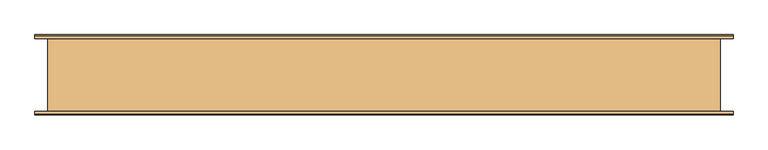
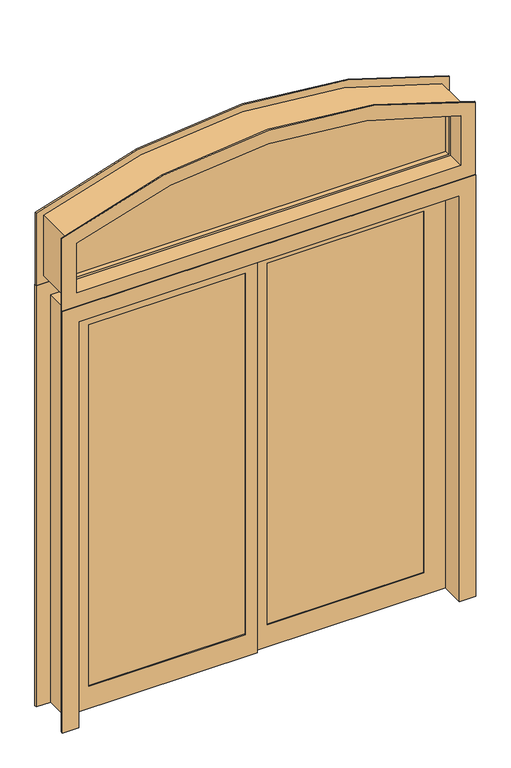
"""IFC4 building model written with IfcOpenShell, lengths in millimetres: door geometry, Pollard_Windows_Vistador Patio Doors_ATS_Extended Segmental : AVDR7180-ESW1806."""

import ifcopenshell
import ifcopenshell.guid

model = None  # the IFC model being written
_history = None  # IfcOwnerHistory: only IFC2X3 demands one
_inside = {}  # id of a spatial element -> (the spatial element, [elements in it])
_under = {}  # id of a project, library or spatial element -> (it, [spatial elements below it])
_declared = {}  # id of a project -> (the project, [libraries it declares])
_typed = {}  # id of a type object -> (the type object, [elements of that type])
_made_of = {}  # id of a material, layer set ... -> (it, [elements and type objects made of it])


def new_model(schema):
    """Start an empty IFC model of exactly this schema.

    Asked for "IFC4X3", IfcOpenShell would pick the latest addendum, in which some entities
    have other attributes; the version numbers below select the first issue.
    IFC2X3 requires an IfcOwnerHistory on every rooted entity: one is made here for all.
    """
    global model, _history
    if schema == "IFC4X3":
        model = ifcopenshell.file(schema_version=(4, 3, 0, 0))
    else:
        model = ifcopenshell.file(schema=schema)
    _inside.clear()
    _under.clear()
    _declared.clear()
    _typed.clear()
    _made_of.clear()
    _history = None
    if model.schema == "IFC2X3":
        org = make("IfcOrganization", Name="unknown")
        user = make(
            "IfcPersonAndOrganization",
            ThePerson=make("IfcPerson", FamilyName="unknown"),
            TheOrganization=org,
        )
        app = make(
            "IfcApplication",
            ApplicationDeveloper=org,
            Version="unknown",
            ApplicationFullName="unknown",
            ApplicationIdentifier="unknown",
        )
        _history = make(
            "IfcOwnerHistory",
            OwningUser=user,
            OwningApplication=app,
            ChangeAction="ADDED",
            CreationDate=0,
        )
    return model


def make(cls, **values):
    """One entity of the class cls with the attributes given. An attribute that is None is left unset."""
    return model.create_entity(
        cls, **{name: value for name, value in values.items() if value is not None}
    )


def rooted(cls, **values):
    """An entity with a GlobalId (a new one), such as an element, a storey or a relation."""
    return make(cls, GlobalId=ifcopenshell.guid.new(), OwnerHistory=_history, **values)


def si_unit(unit_type, name, prefix=None):
    """IfcSIUnit, for example si_unit("LENGTHUNIT", "METRE", prefix="MILLI")."""
    return make("IfcSIUnit", UnitType=unit_type, Prefix=prefix, Name=name)


def assignment(units):
    """IfcUnitAssignment: the units of a project."""
    return None if units is None else make("IfcUnitAssignment", Units=units)


def point(xyz):
    """IfcCartesianPoint."""
    return None if xyz is None else make("IfcCartesianPoint", Coordinates=xyz)


def direction(xyz):
    """IfcDirection."""
    return None if xyz is None else make("IfcDirection", DirectionRatios=xyz)


def frame(location, z_axis=None, x_axis=None):
    """IfcAxis2Placement3D, a coordinate frame: its origin and axes. An axis left out is left unset."""
    return make(
        "IfcAxis2Placement3D",
        Location=point(location),
        Axis=direction(z_axis),
        RefDirection=direction(x_axis),
    )


def frame_2d(location, x_axis=None):
    """IfcAxis2Placement2D, a coordinate frame in the plane: its origin and x axis."""
    return make(
        "IfcAxis2Placement2D", Location=point(location), RefDirection=direction(x_axis)
    )


def origin():
    """The frame at (0, 0, 0) with its axes left unset."""
    return frame((0.0, 0.0, 0.0))


def place(relative_to, where):
    """IfcLocalPlacement: puts the frame where relative to a parent placement (None: the world)."""
    return make(
        "IfcLocalPlacement", PlacementRelTo=relative_to, RelativePlacement=where
    )


def context(
    kind, dimensions, precision=None, world=None, true_north=None, identifier=None
):
    """IfcGeometricRepresentationContext, for example the 3D "Model" context."""
    return make(
        "IfcGeometricRepresentationContext",
        ContextIdentifier=identifier,
        ContextType=kind,
        CoordinateSpaceDimension=dimensions,
        Precision=precision,
        WorldCoordinateSystem=world,
        TrueNorth=true_north,
    )


def project(units=None, contexts=None):
    """IfcProject with its units and contexts."""
    return rooted(
        "IfcProject",
        Name="project",
        RepresentationContexts=contexts,
        UnitsInContext=assignment(units),
    )


def spatial(cls, under=None, at=None, **own):
    """A site, building, storey or space (cls), placed at a placement, below another one or the project."""
    s = rooted(cls, ObjectPlacement=at, **own)
    if under is not None:
        _under.setdefault(under.id(), (under, []))[1].append(s)
    return s


def polyline(points):
    """IfcPolyline through the points."""
    return make("IfcPolyline", Points=[point(p) for p in points])


def circle_curve(where, radius):
    """IfcCircle in the frame where."""
    return make("IfcCircle", Position=where, Radius=radius)


def trimmed(basis, trim1, trim2, sense, master):
    """IfcTrimmedCurve: the piece of a basis curve between two trims."""
    return make(
        "IfcTrimmedCurve",
        BasisCurve=basis,
        Trim1=trim1,
        Trim2=trim2,
        SenseAgreement=sense,
        MasterRepresentation=master,
    )


def segment(curve, same_sense, transition):
    """IfcCompositeCurveSegment."""
    return make(
        "IfcCompositeCurveSegment",
        Transition=transition,
        SameSense=same_sense,
        ParentCurve=curve,
    )


def composite_curve(segments, self_intersect=None):
    """IfcCompositeCurve: segments joined end to end."""
    return make("IfcCompositeCurve", Segments=segments, SelfIntersect=self_intersect)


def outline(outer, holes=None, kind="AREA"):
    """IfcArbitraryClosedProfileDef: a profile drawn as a closed curve; with holes, ...WithVoids."""
    if holes is None:
        return make("IfcArbitraryClosedProfileDef", ProfileType=kind, OuterCurve=outer)
    return make(
        "IfcArbitraryProfileDefWithVoids",
        ProfileType=kind,
        OuterCurve=outer,
        InnerCurves=holes,
    )


def extrude(swept, where, along, depth):
    """IfcExtrudedAreaSolid: the profile swept, set in the frame where, extruded along a direction by depth."""
    return make(
        "IfcExtrudedAreaSolid",
        SweptArea=swept,
        Position=where,
        ExtrudedDirection=direction(along),
        Depth=depth,
    )


def faces_of(points, faces, orient=None, outer=None):
    """IfcFace entities. A face is a list of loops; a loop is a list of indices into points, from 0.

    orient and outer hold one flag for each loop. By default every Orientation is true, the
    first loop of a face is its IfcFaceOuterBound and the others are IfcFaceBound.
    """
    made = []
    for i, loops in enumerate(faces):
        bounds = []
        for j, loop in enumerate(loops):
            is_outer = j == 0 if outer is None else outer[i][j]
            bounds.append(
                make(
                    "IfcFaceOuterBound" if is_outer else "IfcFaceBound",
                    Bound=make("IfcPolyLoop", Polygon=[points[k] for k in loop]),
                    Orientation=True if orient is None else orient[i][j],
                )
            )
        made.append(make("IfcFace", Bounds=bounds))
    return made


def faceted_brep(points, faces, orient=None, outer=None, voids=None):
    """IfcFacetedBrep: a solid bounded by flat faces; with voids (closed shells), ...WithVoids."""
    shared = [point(p) for p in points]
    hull = make("IfcClosedShell", CfsFaces=faces_of(shared, faces, orient, outer))
    if voids is None:
        return make("IfcFacetedBrep", Outer=hull)
    return make(
        "IfcFacetedBrepWithVoids",
        Outer=hull,
        Voids=[
            make(cls, CfsFaces=faces_of(shared, fs, o, b)) for cls, fs, o, b in voids
        ],
    )


def shape(context_of_items, identifier, shape_type, items):
    """IfcShapeRepresentation: the items that make up one representation, for example the "Body"."""
    return make(
        "IfcShapeRepresentation",
        ContextOfItems=context_of_items,
        RepresentationIdentifier=identifier,
        RepresentationType=shape_type,
        Items=items,
    )


def source(mapping_origin, context_of_items, identifier, shape_type, items):
    """IfcRepresentationMap: a shape defined once, which mapped items show again and again."""
    return make(
        "IfcRepresentationMap",
        MappingOrigin=mapping_origin,
        MappedRepresentation=shape(context_of_items, identifier, shape_type, items),
    )


def transform(
    local_origin,
    x_axis=None,
    y_axis=None,
    z_axis=None,
    scale=None,
    scale2=None,
    scale3=None,
    uniform=True,
):
    """IfcCartesianTransformationOperator3D, or its non-uniform kind. x_axis, y_axis, z_axis: its Axis1, 2, 3."""
    if uniform:
        return make(
            "IfcCartesianTransformationOperator3D",
            Axis1=direction(x_axis),
            Axis2=direction(y_axis),
            LocalOrigin=point(local_origin),
            Scale=scale,
            Axis3=direction(z_axis),
        )
    return make(
        "IfcCartesianTransformationOperator3DnonUniform",
        Axis1=direction(x_axis),
        Axis2=direction(y_axis),
        LocalOrigin=point(local_origin),
        Scale=scale,
        Axis3=direction(z_axis),
        Scale2=scale2,
        Scale3=scale3,
    )


def mapped(mapping_source, mapping_target):
    """IfcMappedItem: shows the shape of a source again, moved by a transform."""
    return make(
        "IfcMappedItem", MappingSource=mapping_source, MappingTarget=mapping_target
    )


def made_of(thing, what):
    """Note that an element or type object is made of a material, layer set ...; save() writes the relation."""
    if what is not None:
        _made_of.setdefault(what.id(), (what, []))[1].append(thing)
    return thing


def element(
    cls,
    number,
    at=None,
    inside=None,
    cuts=None,
    type_object=None,
    material=None,
    context=None,
    identifier="Body",
    shape_type=None,
    held_by="IfcProductDefinitionShape",
    body=None,
    shapes=None,
    **own,
):
    """One element of the class cls, such as IfcWall. Its Tag is "e" and its number.

    at: its placement. inside: the storey or other place that contains it. cuts: it is an
    opening in that element (IfcRelVoidsElement). A single representation is given by context,
    identifier, shape_type and body (its items); several are given by shapes. held_by: the class
    of the entity that holds the representations. save() writes the other relations.
    """
    e = rooted(cls, Tag="e%d" % number, ObjectPlacement=at, **own)
    if body is not None:
        shapes = [shape(context, identifier, shape_type, body)]
    if shapes is not None:
        e.Representation = make(held_by, Representations=shapes)
    if inside is not None:
        _inside.setdefault(inside.id(), (inside, []))[1].append(e)
    if cuts is not None:
        rooted(
            "IfcRelVoidsElement", RelatingBuildingElement=cuts, RelatedOpeningElement=e
        )
    if type_object is not None:
        _typed.setdefault(type_object.id(), (type_object, []))[1].append(e)
    return made_of(e, material)


def aggregate(whole, parts):
    """IfcRelAggregates: a whole, such as a stair, and the parts it consists of."""
    return rooted("IfcRelAggregates", RelatingObject=whole, RelatedObjects=parts)


def save(model, path):
    """Write the relations noted so far, then the file.

    IfcRelAggregates (storeys below a building ...), IfcRelContainedInSpatialStructure (elements
    in a storey), IfcRelDefinesByType, IfcRelAssociatesMaterial and IfcRelDeclares: one each for
    every whole, place, type object, material and project.
    """
    for whole, parts in _under.values():
        aggregate(whole, parts)
    for where, things in _inside.values():
        rooted(
            "IfcRelContainedInSpatialStructure",
            RelatedElements=things,
            RelatingStructure=where,
        )
    for kind, things in _typed.values():
        rooted("IfcRelDefinesByType", RelatedObjects=things, RelatingType=kind)
    for what, things in _made_of.values():
        rooted("IfcRelAssociatesMaterial", RelatedObjects=things, RelatingMaterial=what)
    for by, libraries in _declared.values():
        rooted("IfcRelDeclares", RelatingContext=by, RelatedDefinitions=libraries)
    model.write(path)


def plane_surface(at):
    """IfcPlane: the flat surface through the origin of the frame at, square to its z axis."""
    return make("IfcPlane", Position=at)


def cylinder_surface(at, radius):
    """IfcCylindricalSurface: all points at the distance radius from the z axis of the frame at."""
    return make("IfcCylindricalSurface", Position=at, Radius=radius)


def revolved_surface(curve, axis_point, axis_direction):
    """IfcSurfaceOfRevolution: the curve turned about the line through axis_point along axis_direction."""
    return make(
        "IfcSurfaceOfRevolution",
        SweptCurve=make("IfcArbitraryOpenProfileDef", ProfileType="CURVE", Curve=curve),
        AxisPosition=make("IfcAxis1Placement", Location=point(axis_point), Axis=direction(axis_direction)),
    )


def advanced_brep(points, edges, surfaces, faces):
    """IfcAdvancedBrep: a solid bounded by faces that lie on surfaces and meet in shared edges.

    An edge is (start, end): straight between two places in points (the first is 0);
    or (start, end, curve); or (start, end, curve, False) where it runs against its curve.
    A face is (place in surfaces, loops), or (place, loops, False) where it looks against
    its surface's normal. A loop lists edges by number (the first is 1), with a minus sign
    where the edge is run from its end to its start. The first loop is the outer one.
    """
    corners = [point(p) for p in points]
    vertices = [make("IfcVertexPoint", VertexGeometry=c) for c in corners]
    made = []
    for start, end, *more in edges:
        made.append(
            make(
                "IfcEdgeCurve",
                EdgeStart=vertices[start],
                EdgeEnd=vertices[end],
                EdgeGeometry=more[0] if more else make("IfcPolyline", Points=[corners[start], corners[end]]),
                SameSense=more[1] if len(more) > 1 else True,
            )
        )
    hull = []
    for where, loops, *sense in faces:
        bounds = []
        for j, loop in enumerate(loops):
            ring = [make("IfcOrientedEdge", EdgeElement=made[abs(k) - 1], Orientation=k > 0) for k in loop]
            bounds.append(
                make(
                    "IfcFaceOuterBound" if j == 0 else "IfcFaceBound",
                    Bound=make("IfcEdgeLoop", EdgeList=ring),
                    Orientation=True,
                )
            )
        hull.append(make("IfcAdvancedFace", Bounds=bounds, FaceSurface=surfaces[where], SameSense=sense[0] if sense else True))
    return make("IfcAdvancedBrep", Outer=make("IfcClosedShell", CfsFaces=hull))


def door_bd5e4fd7(model_context):
    return source(origin(), model_context, "Body", "SolidModel", [
        extrude(outline(composite_curve([segment(trimmed(circle_curve(frame_2d((192.3310275, 0.0)), 2404.8403652), [point((2414.0558519, 920.4325))], [point((2414.0558519, -920.4325))], False, "CARTESIAN"), True, "CONTINUOUS"), segment(polyline([(2414.0558519, -920.4325), (2135.378, -920.4325), (2135.378, 920.4325), (2414.0558519, 920.4325)]), True, "CONTINUOUS")], self_intersect=False)), frame((0.0, -2.6145378, 0.0), z_axis=(0.0, 1.0, 0.0), x_axis=(0.0, 0.0, 1.0)), (0.0, 0.0, 1.0), 5.2290756),
        advanced_brep(
        [(920.4325, -25.4, 2135.378), (920.4325, 25.4, 2135.378), (920.4325, 25.4, 2414.0558519), (920.4325, -25.4, 2414.0558519), (890.4543258, -2.6145378, 2165.3561742), (890.4543258, -25.4, 2165.3561742), (890.4543258, -25.4, 2393.9353334), (890.4543258, -2.6145378, 2393.9353334), (900.1125, 2.6145378, 2155.698), (900.1125, -2.6145378, 2155.698), (900.1125, -2.6145378, 2400.4376507), (900.1125, 2.6145378, 2400.4376507), (890.4543258, 25.4, 2165.3561742), (890.4543258, 2.6145378, 2165.3561742), (890.4543258, 2.6145378, 2393.9353334), (890.4543258, 25.4, 2393.9353334), (-920.4325, -25.4, 2414.0558519), (-920.4325, 25.4, 2414.0558519), (-920.4325, -25.4, 2135.378), (-890.4543258, -25.4, 2393.9353334), (-890.4543258, -25.4, 2165.3561742), (-890.4543258, -2.6145378, 2393.9353334), (-900.1125, -2.6145378, 2400.4376507), (-900.1125, -2.6145378, 2155.698), (-890.4543258, -2.6145378, 2165.3561742), (-900.1125, 2.6145378, 2400.4376507), (-900.1125, 2.6145378, 2155.698), (-890.4543258, 2.6145378, 2393.9353334), (-890.4543258, 2.6145378, 2165.3561742), (-890.4543258, 25.4, 2393.9353334), (-920.4325, 25.4, 2135.378), (-890.4543258, 25.4, 2165.3561742)],
        [
            (0, 1),
            (1, 2),
            (2, 3),
            (3, 0),
            (4, 5),
            (5, 6),
            (6, 7),
            (7, 4),
            (8, 9),
            (9, 10),
            (10, 11),
            (11, 8),
            (12, 13),
            (13, 14),
            (14, 15),
            (15, 12),
            (16, 3, circle_curve(frame((0.0, -25.4, 192.3310275), z_axis=(0.0, 1.0, 0.0), x_axis=(0.38598424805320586, 0.0, 0.9225053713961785)), 2404.8403652)),
            (2, 17, circle_curve(frame((0.0, 25.4, 192.3310275), z_axis=(0.0, -1.0, 0.0), x_axis=(0.38598424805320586, 0.0, 0.9225053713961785)), 2404.8403652)),
            (17, 16),
            (16, 18),
            (18, 0),
            (19, 6, circle_curve(frame((0.0, -25.4, 192.3310275), z_axis=(0.0, 1.0, 0.0), x_axis=(0.38598424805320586, 0.0, 0.9225053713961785)), 2374.862191)),
            (5, 20),
            (20, 19),
            (21, 7, circle_curve(frame((0.0, -2.6145378, 192.3310275), z_axis=(0.0, 1.0, 0.0), x_axis=(0.38598424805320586, 0.0, 0.9225053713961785)), 2374.862191)),
            (19, 21),
            (22, 10, circle_curve(frame((0.0, -2.6145378, 192.3310275), z_axis=(0.0, 1.0, 0.0), x_axis=(0.38598424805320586, 0.0, 0.9225053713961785)), 2384.5203652)),
            (9, 23),
            (23, 22),
            (21, 24),
            (24, 4),
            (25, 11, circle_curve(frame((0.0, 2.6145378, 192.3310275), z_axis=(0.0, 1.0, 0.0), x_axis=(0.38598424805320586, 0.0, 0.9225053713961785)), 2384.5203652)),
            (22, 25),
            (25, 26),
            (26, 8),
            (27, 14, circle_curve(frame((0.0, 2.6145378, 192.3310275), z_axis=(0.0, 1.0, 0.0), x_axis=(0.38598424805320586, 0.0, 0.9225053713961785)), 2374.862191)),
            (13, 28),
            (28, 27),
            (29, 15, circle_curve(frame((0.0, 25.4, 192.3310275), z_axis=(0.0, 1.0, 0.0), x_axis=(0.38598424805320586, 0.0, 0.9225053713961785)), 2374.862191)),
            (27, 29),
            (1, 30),
            (30, 17),
            (29, 31),
            (31, 12),
            (30, 18),
            (20, 24),
            (23, 26),
            (28, 31),
        ],
        [
            plane_surface(frame((920.4325, 25.4, 2135.378), z_axis=(1.0, 0.0, 0.0), x_axis=(0.0, 0.0, 1.0))),
            plane_surface(frame((890.4543258, -25.4, 2165.3561742), z_axis=(-1.0, 0.0, 0.0), x_axis=(0.0, 0.0, 1.0))),
            plane_surface(frame((900.1125, -2.6145378, 2155.698), z_axis=(-1.0, 0.0, 0.0), x_axis=(0.0, 0.0, 1.0))),
            plane_surface(frame((890.4543258, 2.6145378, 2165.3561742), z_axis=(-1.0, 0.0, 0.0), x_axis=(0.0, 0.0, 1.0))),
            cylinder_surface(frame((0.0, 0.0, 192.3310275), z_axis=(0.0, -1.0, 0.0), x_axis=(0.38598424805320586, 0.0, 0.9225053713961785)), 2404.8403652),
            plane_surface(frame((0.0, -25.4, 192.3310275), z_axis=(0.0, -1.0, 0.0), x_axis=(0.38598424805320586, 0.0, 0.9225053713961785))),
            revolved_surface(polyline([(916.659397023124, -25.4, 2383.1541550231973), (916.659397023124, -2.6145378, 2383.1541550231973)]), (0.0, 0.0, 192.3310275), (0.0, -1.0, 0.0)),
            plane_surface(frame((0.0, -2.6145378, 192.3310275), z_axis=(0.0, 1.0, 0.0), x_axis=(0.38598424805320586, 0.0, 0.9225053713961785))),
            revolved_surface(polyline([(920.3873001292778, -2.6145378, 2392.0638726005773), (920.3873001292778, 2.6145378, 2392.0638726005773)]), (0.0, 0.0, 192.3310275), (0.0, -1.0, 0.0)),
            plane_surface(frame((0.0, 2.6145378, 192.3310275), z_axis=(0.0, -1.0, 0.0), x_axis=(0.38598424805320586, 0.0, 0.9225053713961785))),
            revolved_surface(polyline([(916.659397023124, 2.6145378, 2383.1541550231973), (916.659397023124, 25.4, 2383.1541550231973)]), (0.0, 0.0, 192.3310275), (0.0, -1.0, 0.0)),
            plane_surface(frame((0.0, 25.4, 192.3310275), z_axis=(0.0, 1.0, 0.0), x_axis=(0.38598424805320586, 0.0, 0.9225053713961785))),
            plane_surface(frame((-920.4325, 25.4, 2414.0558519), z_axis=(-1.0, 0.0, 0.0), x_axis=(0.0, 0.0, -1.0))),
            plane_surface(frame((-890.4543258, -25.4, 2393.9353334), z_axis=(1.0, 0.0, 0.0), x_axis=(0.0, 0.0, -1.0))),
            plane_surface(frame((-900.1125, -2.6145378, 2400.4376507), z_axis=(1.0, 0.0, 0.0), x_axis=(0.0, 0.0, -1.0))),
            plane_surface(frame((-890.4543258, 2.6145378, 2393.9353334), z_axis=(1.0, 0.0, 0.0), x_axis=(0.0, 0.0, -1.0))),
            plane_surface(frame((-920.4325, 25.4, 2135.378), z_axis=(0.0, 0.0, -1.0), x_axis=(1.0, 0.0, 0.0))),
            plane_surface(frame((-890.4543258, -25.4, 2165.3561742), z_axis=(0.0, 0.0, 1.0), x_axis=(1.0, 0.0, 0.0))),
            plane_surface(frame((-900.1125, -2.6145378, 2155.698), z_axis=(0.0, 0.0, 1.0), x_axis=(1.0, 0.0, 0.0))),
            plane_surface(frame((-890.4543258, 2.6145378, 2165.3561742), z_axis=(0.0, 0.0, 1.0), x_axis=(1.0, 0.0, 0.0))),
        ],
        [
            (0, [[1, 2, 3, 4]]),
            (1, [[5, 6, 7, 8]]),
            (2, [[9, 10, 11, 12]]),
            (3, [[13, 14, 15, 16]]),
            (4, [[17, -3, 18, 19]]),
            (5, [[-17, 20, 21, -4], [22, -6, 23, 24]]),
            (6, [[25, -7, -22, 26]]),
            (7, [[27, -10, 28, 29], [-25, 30, 31, -8]]),
            (8, [[32, -11, -27, 33]]),
            (9, [[-32, 34, 35, -12], [36, -14, 37, 38]]),
            (10, [[39, -15, -36, 40]]),
            (11, [[-18, -2, 41, 42], [-39, 43, 44, -16]]),
            (12, [[-19, -42, 45, -20]]),
            (13, [[-26, -24, 46, -30]]),
            (14, [[-33, -29, 47, -34]]),
            (15, [[-40, -38, 48, -43]]),
            (16, [[-45, -41, -1, -21]]),
            (17, [[-46, -23, -5, -31]]),
            (18, [[-47, -28, -9, -35]]),
            (19, [[-48, -37, -13, -44]]),
        ],
    ),
        advanced_brep(
        [(-968.3115, -107.95, 2445.8183524), (-968.3115, -101.6, 2445.8183524), (-968.3115, -101.6, 2087.499), (-968.3115, -107.95, 2087.499), (-900.1125, -25.4, 2400.4376507), (-900.1125, -101.6, 2400.4376507), (-900.1125, -107.95, 2400.4376507), (-900.1125, -107.95, 2155.698), (-900.1125, -25.4, 2155.698), (-920.4325, 25.4, 2414.0558519), (-920.4325, -25.4, 2414.0558519), (-920.4325, -25.4, 2135.378), (-920.4325, 25.4, 2135.378), (-900.1125, 107.95, 2400.4376507), (-900.1125, 25.4, 2400.4376507), (-900.1125, 25.4, 2155.698), (-900.1125, 107.95, 2155.698), (-968.3115, 101.6, 2445.8183524), (-968.3115, 107.95, 2445.8183524), (-968.3115, 107.95, 2087.499), (-968.3115, 101.6, 2087.499), (-933.1325, -101.6, 2422.525), (-933.1325, 101.6, 2422.525), (-933.1325, 101.6, 2122.678), (-933.1325, -101.6, 2122.678), (968.3115, -101.6, 2087.499), (968.3115, -107.95, 2087.499), (900.1125, -107.95, 2155.698), (900.1125, -25.4, 2155.698), (920.4325, -25.4, 2135.378), (920.4325, 25.4, 2135.378), (900.1125, 25.4, 2155.698), (900.1125, 107.95, 2155.698), (968.3115, 107.95, 2087.499), (968.3115, 101.6, 2087.499), (933.1325, 101.6, 2122.678), (933.1325, -101.6, 2122.678), (968.3115, -101.6, 2445.8183524), (968.3115, -107.95, 2445.8183524), (900.1125, -107.95, 2400.4376507), (900.1125, -101.6, 2400.4376507), (900.1125, -25.4, 2400.4376507), (920.4325, -25.4, 2414.0558519), (920.4325, 25.4, 2414.0558519), (900.1125, 25.4, 2400.4376507), (900.1125, 107.95, 2400.4376507), (968.3115, 107.95, 2445.8183524), (968.3115, 101.6, 2445.8183524), (933.1325, 101.6, 2422.525), (933.1325, -101.6, 2422.525)],
        [
            (0, 1),
            (1, 2),
            (2, 3),
            (3, 0),
            (4, 5),
            (5, 6),
            (6, 7),
            (7, 8),
            (8, 4),
            (9, 10),
            (10, 11),
            (11, 12),
            (12, 9),
            (13, 14),
            (14, 15),
            (15, 16),
            (16, 13),
            (17, 18),
            (18, 19),
            (19, 20),
            (20, 17),
            (21, 22),
            (22, 23),
            (23, 24),
            (24, 21),
            (2, 25),
            (25, 26),
            (26, 3),
            (7, 27),
            (27, 28),
            (28, 8),
            (11, 29),
            (29, 30),
            (30, 12),
            (15, 31),
            (31, 32),
            (32, 16),
            (19, 33),
            (33, 34),
            (34, 20),
            (23, 35),
            (35, 36),
            (36, 24),
            (25, 37),
            (37, 38),
            (38, 26),
            (27, 39),
            (39, 40),
            (40, 41),
            (41, 28),
            (29, 42),
            (42, 43),
            (43, 30),
            (31, 44),
            (44, 45),
            (45, 32),
            (33, 46),
            (46, 47),
            (47, 34),
            (35, 48),
            (48, 49),
            (49, 36),
            (1, 37, circle_curve(frame((0.0, -101.6, 192.3310275), z_axis=(0.0, 1.0, 0.0), x_axis=(0.3859842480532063, 0.0, 0.9225053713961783)), 2452.7193652)),
            (49, 21, circle_curve(frame((0.0, -101.6, 192.3310275), z_axis=(0.0, -1.0, 0.0), x_axis=(0.3859842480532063, 0.0, 0.9225053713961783)), 2417.5403652)),
            (0, 38, circle_curve(frame((0.0, -107.95, 192.3310275), z_axis=(0.0, 1.0, 0.0), x_axis=(0.3859842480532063, 0.0, 0.9225053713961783)), 2452.7193652)),
            (6, 39, circle_curve(frame((0.0, -107.95, 192.3310275), z_axis=(0.0, 1.0, 0.0), x_axis=(0.3859842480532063, 0.0, 0.9225053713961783)), 2384.5203652)),
            (5, 40, circle_curve(frame((0.0, -101.6, 192.3310275), z_axis=(0.0, 1.0, 0.0), x_axis=(0.3859842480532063, 0.0, 0.9225053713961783)), 2384.5203652)),
            (4, 41, circle_curve(frame((0.0, -25.4, 192.3310275), z_axis=(0.0, 1.0, 0.0), x_axis=(0.3859842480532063, 0.0, 0.9225053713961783)), 2384.5203652)),
            (10, 42, circle_curve(frame((0.0, -25.4, 192.3310275), z_axis=(0.0, 1.0, 0.0), x_axis=(0.3859842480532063, 0.0, 0.9225053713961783)), 2404.8403652)),
            (9, 43, circle_curve(frame((0.0, 25.4, 192.3310275), z_axis=(0.0, 1.0, 0.0), x_axis=(0.3859842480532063, 0.0, 0.9225053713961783)), 2404.8403652)),
            (14, 44, circle_curve(frame((0.0, 25.4, 192.3310275), z_axis=(0.0, 1.0, 0.0), x_axis=(0.3859842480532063, 0.0, 0.9225053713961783)), 2384.5203652)),
            (13, 45, circle_curve(frame((0.0, 107.95, 192.3310275), z_axis=(0.0, 1.0, 0.0), x_axis=(0.3859842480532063, 0.0, 0.9225053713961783)), 2384.5203652)),
            (18, 46, circle_curve(frame((0.0, 107.95, 192.3310275), z_axis=(0.0, 1.0, 0.0), x_axis=(0.3859842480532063, 0.0, 0.9225053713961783)), 2452.7193652)),
            (17, 47, circle_curve(frame((0.0, 101.6, 192.3310275), z_axis=(0.0, 1.0, 0.0), x_axis=(0.3859842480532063, 0.0, 0.9225053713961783)), 2452.7193652)),
            (22, 48, circle_curve(frame((0.0, 101.6, 192.3310275), z_axis=(0.0, 1.0, 0.0), x_axis=(0.3859842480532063, 0.0, 0.9225053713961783)), 2417.5403652)),
        ],
        [
            plane_surface(frame((-968.3115, -101.6, 2445.8183524), z_axis=(-1.0, 0.0, 0.0), x_axis=(0.0, 0.0, -1.0))),
            plane_surface(frame((-900.1125, -101.6, 2400.4376507), z_axis=(1.0, 0.0, 0.0), x_axis=(0.0, 0.0, -1.0))),
            plane_surface(frame((-920.4325, -25.4, 2414.0558519), z_axis=(1.0, 0.0, 0.0), x_axis=(0.0, 0.0, -1.0))),
            plane_surface(frame((-900.1125, 25.4, 2400.4376507), z_axis=(1.0, 0.0, 0.0), x_axis=(0.0, 0.0, -1.0))),
            plane_surface(frame((-968.3115, 107.95, 2445.8183524), z_axis=(-1.0, 0.0, 0.0), x_axis=(0.0, 0.0, -1.0))),
            plane_surface(frame((-933.1325, 101.6, 2422.525), z_axis=(-1.0, 0.0, 0.0), x_axis=(0.0, 0.0, -1.0))),
            plane_surface(frame((-968.3115, -101.6, 2087.499), z_axis=(0.0, 0.0, -1.0), x_axis=(1.0, 0.0, 0.0))),
            plane_surface(frame((-900.1125, -101.6, 2155.698), z_axis=(0.0, 0.0, 1.0), x_axis=(1.0, 0.0, 0.0))),
            plane_surface(frame((-920.4325, -25.4, 2135.378), z_axis=(0.0, 0.0, 1.0), x_axis=(1.0, 0.0, 0.0))),
            plane_surface(frame((-900.1125, 25.4, 2155.698), z_axis=(0.0, 0.0, 1.0), x_axis=(1.0, 0.0, 0.0))),
            plane_surface(frame((-968.3115, 107.95, 2087.499), z_axis=(0.0, 0.0, -1.0), x_axis=(1.0, 0.0, 0.0))),
            plane_surface(frame((-933.1325, 101.6, 2122.678), z_axis=(0.0, 0.0, -1.0), x_axis=(1.0, 0.0, 0.0))),
            plane_surface(frame((968.3115, -101.6, 2087.499), z_axis=(1.0, 0.0, 0.0), x_axis=(0.0, 0.0, 1.0))),
            plane_surface(frame((900.1125, -101.6, 2155.698), z_axis=(-1.0, 0.0, 0.0), x_axis=(0.0, 0.0, 1.0))),
            plane_surface(frame((920.4325, -25.4, 2135.378), z_axis=(-1.0, 0.0, 0.0), x_axis=(0.0, 0.0, 1.0))),
            plane_surface(frame((900.1125, 25.4, 2155.698), z_axis=(-1.0, 0.0, 0.0), x_axis=(0.0, 0.0, 1.0))),
            plane_surface(frame((968.3115, 107.95, 2087.499), z_axis=(1.0, 0.0, 0.0), x_axis=(0.0, 0.0, 1.0))),
            plane_surface(frame((933.1325, 101.6, 2122.678), z_axis=(1.0, 0.0, 0.0), x_axis=(0.0, 0.0, 1.0))),
            plane_surface(frame((0.0, -101.6, 192.3310275), z_axis=(0.0, 1.0, 0.0), x_axis=(0.3859842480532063, 0.0, 0.9225053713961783))),
            cylinder_surface(frame((0.0, 101.6, 192.3310275), z_axis=(0.0, -1.0, 0.0), x_axis=(0.3859842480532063, 0.0, 0.9225053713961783)), 2452.7193652),
            plane_surface(frame((0.0, -107.95, 192.3310275), z_axis=(0.0, -1.0, 0.0), x_axis=(0.3859842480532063, 0.0, 0.9225053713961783))),
            revolved_surface(polyline([(920.3873001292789, -107.95000000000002, 2392.0638726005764), (920.3873001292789, -101.6, 2392.0638726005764)]), (0.0, 101.6, 192.3310275), (0.0, -1.0, 0.0)),
            revolved_surface(polyline([(920.3873001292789, -101.6, 2392.0638726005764), (920.3873001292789, -25.400000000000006, 2392.0638726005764)]), (0.0, 101.6, 192.3310275), (0.0, -1.0, 0.0)),
            plane_surface(frame((0.0, -25.4, 192.3310275), z_axis=(0.0, 1.0, 0.0), x_axis=(0.3859842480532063, 0.0, 0.9225053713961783))),
            revolved_surface(polyline([(928.2305000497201, -25.400000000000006, 2410.809181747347), (928.2305000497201, 25.400000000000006, 2410.809181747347)]), (0.0, 101.6, 192.3310275), (0.0, -1.0, 0.0)),
            plane_surface(frame((0.0, 25.4, 192.3310275), z_axis=(0.0, -1.0, 0.0), x_axis=(0.3859842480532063, 0.0, 0.9225053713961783))),
            revolved_surface(polyline([(920.3873001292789, 25.400000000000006, 2392.0638726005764), (920.3873001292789, 107.95, 2392.0638726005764)]), (0.0, 101.6, 192.3310275), (0.0, -1.0, 0.0)),
            plane_surface(frame((0.0, 107.95, 192.3310275), z_axis=(0.0, 1.0, 0.0), x_axis=(0.3859842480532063, 0.0, 0.9225053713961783))),
            plane_surface(frame((0.0, 101.6, 192.3310275), z_axis=(0.0, -1.0, 0.0), x_axis=(0.3859842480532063, 0.0, 0.9225053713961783))),
            cylinder_surface(frame((0.0, 101.6, 192.3310275), z_axis=(0.0, -1.0, 0.0), x_axis=(0.3859842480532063, 0.0, 0.9225053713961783)), 2417.5403652),
        ],
        [
            (0, [[1, 2, 3, 4]]),
            (1, [[5, 6, 7, 8, 9]]),
            (2, [[10, 11, 12, 13]]),
            (3, [[14, 15, 16, 17]]),
            (4, [[18, 19, 20, 21]]),
            (5, [[22, 23, 24, 25]]),
            (6, [[-3, 26, 27, 28]]),
            (7, [[-8, 29, 30, 31]]),
            (8, [[-12, 32, 33, 34]]),
            (9, [[-16, 35, 36, 37]]),
            (10, [[-20, 38, 39, 40]]),
            (11, [[-24, 41, 42, 43]]),
            (12, [[-27, 44, 45, 46]]),
            (13, [[-30, 47, 48, 49, 50]]),
            (14, [[-33, 51, 52, 53]]),
            (15, [[-36, 54, 55, 56]]),
            (16, [[-39, 57, 58, 59]]),
            (17, [[-42, 60, 61, 62]]),
            (18, [[63, -44, -26, -2], [-43, -62, 64, -25]]),
            (19, [[65, -45, -63, -1]]),
            (20, [[-28, -46, -65, -4], [66, -47, -29, -7]]),
            (21, [[67, -48, -66, -6]]),
            (22, [[68, -49, -67, -5]]),
            (23, [[69, -51, -32, -11], [-31, -50, -68, -9]]),
            (24, [[70, -52, -69, -10]]),
            (25, [[-34, -53, -70, -13], [71, -54, -35, -15]]),
            (26, [[72, -55, -71, -14]]),
            (27, [[73, -57, -38, -19], [-37, -56, -72, -17]]),
            (19, [[74, -58, -73, -18]]),
            (28, [[-40, -59, -74, -21], [75, -60, -41, -23]]),
            (29, [[-64, -61, -75, -22]]),
        ],
    ),
        extrude(outline(polyline([(-54.991, -10.0399998), (-790.1305, -10.0399998), (-790.1305, -4.9599998), (-54.991, -4.9599998), (-54.991, -10.0399998)])), frame((0.0, 0.0, 109.982), z_axis=(0.0, 0.0, 1.0), x_axis=(1.0, 0.0, 0.0)), (0.0, 0.0, 1.0), 1790.586),
        extrude(outline(polyline([(54.991, 10.0399998), (790.1305, 10.0399998), (790.1305, 4.9599998), (54.991, 4.9599998), (54.991, 10.0399998)])), frame((0.0, 0.0, 109.982), z_axis=(0.0, 0.0, 1.0), x_axis=(1.0, 0.0, 0.0)), (0.0, 0.0, 1.0), 1790.586),
        extrude(outline(polyline([(2010.55, 891.3625), (2010.55, 0.0), (0.0, 0.0), (0.0, 891.3625), (2010.55, 891.3625)]), holes=[polyline([(109.982, 790.1305), (109.982, 54.991), (1900.568, 54.991), (1900.568, 790.1305), (109.982, 790.1305)])]), frame((0.0, 0.0, 0.0), z_axis=(0.0, 1.0, 0.0), x_axis=(0.0, 0.0, 1.0)), (0.0, 0.0, 1.0), 14.9999996),
        extrude(outline(polyline([(2010.55, -891.3625), (0.0, -891.3625), (0.0, 0.0), (2010.55, 0.0), (2010.55, -891.3625)]), holes=[polyline([(1900.568, -790.1305), (1900.568, -54.991), (109.982, -54.991), (109.982, -790.1305), (1900.568, -790.1305)])]), frame((0.0, -14.9999996, 0.0), z_axis=(0.0, 1.0, 0.0), x_axis=(0.0, 0.0, 1.0)), (0.0, 0.0, 1.0), 14.9999996),
        faceted_brep([(968.3115, 111.6, 0.0), (968.3115, 101.6, 0.0), (900.1125, 101.6, 0.0), (900.1125, -101.6, 0.0), (968.3115, -101.6, 0.0), (968.3115, -111.6, 0.0), (891.3625, -111.6, 0.0), (891.3625, 111.6, 0.0), (968.3115, 111.6, 2087.499), (968.3115, 101.6, 2087.499), (-968.3115, 101.6, 2087.499), (-968.3115, 101.6, 0.0), (-900.1125, 101.6, 0.0), (-900.1125, 101.6, 2019.3), (900.1125, 101.6, 2019.3), (900.1125, -101.6, 2019.3), (-900.1125, -101.6, 2019.3), (-900.1125, -101.6, 0.0), (-968.3115, -101.6, 0.0), (-968.3115, -101.6, 2087.499), (968.3115, -101.6, 2087.499), (968.3115, -111.6, 2087.499), (-968.3115, -111.6, 2087.499), (-968.3115, -111.6, 0.0), (-891.3625, -111.6, 0.0), (-891.3625, -111.6, 2010.55), (891.3625, -111.6, 2010.55), (891.3625, 111.6, 2010.55), (-891.3625, 111.6, 2010.55), (-891.3625, 111.6, 0.0), (-968.3115, 111.6, 0.0), (-968.3115, 111.6, 2087.499)], [[[0, 1, 2, 3, 4, 5, 6, 7]], [[1, 0, 8, 9]], [[2, 1, 9, 10, 11, 12, 13, 14]], [[2, 14, 15, 3]], [[4, 3, 15, 16, 17, 18, 19, 20]], [[5, 4, 20, 21]], [[6, 5, 21, 22, 23, 24, 25, 26]], [[6, 26, 27, 7]], [[0, 7, 27, 28, 29, 30, 31, 8]], [[30, 29, 24, 23, 18, 17, 12, 11]], [[28, 25, 24, 29]], [[22, 19, 18, 23]], [[16, 13, 12, 17]], [[10, 31, 30, 11]], [[9, 8, 31, 10]], [[27, 26, 25, 28]], [[15, 14, 13, 16]], [[21, 20, 19, 22]]]),
    ])


if __name__ == "__main__":
    model = new_model("IFC4")
    model_context = context("Model", 3, world=origin())
    ifc_project = project(units=[si_unit("LENGTHUNIT", "METRE", prefix="MILLI")], contexts=[model_context])
    site = spatial("IfcSite", under=ifc_project)
    building = spatial("IfcBuilding", under=site)
    placement = place(None, origin())
    door_shape = door_bd5e4fd7(model_context)
    element("IfcDoor", 1, ObjectType="Pollard_Windows_Vistador Patio Doors_ATS_Extended Segmental : AVDR7180-ESW1806", at=placement, inside=building, context=model_context, shape_type="MappedRepresentation", body=[
        mapped(door_shape, transform((0.0, 0.0, 0.0), x_axis=(1.0, 0.0, 0.0), y_axis=(0.0, 1.0, 0.0), z_axis=(0.0, 0.0, 1.0))),
    ])
    save(model, "model.ifc")
